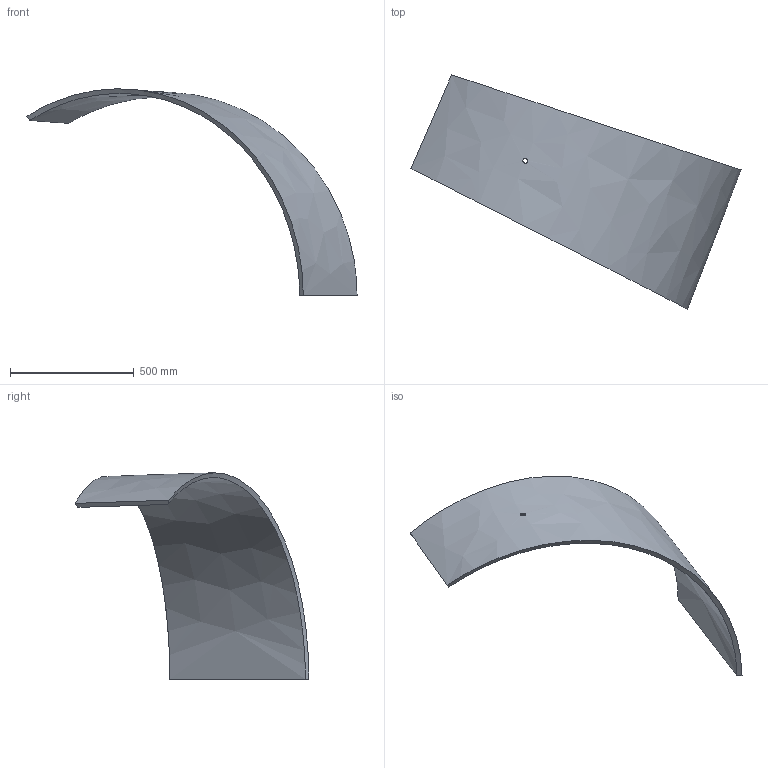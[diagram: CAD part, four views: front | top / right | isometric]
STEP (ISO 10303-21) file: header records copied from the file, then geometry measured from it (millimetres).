
FILE_DESCRIPTION (( 'STEP AP214' ), '1' );
FILE_NAME ('P6.2Mirror.STEP', '2025-01-09T19:43:24', ( '' ), ( '' ), 'SwSTEP 2.0', 'SolidWorks 2024', '' );
FILE_SCHEMA (( 'AUTOMOTIVE_DESIGN' ));
Length unit declared in the file: inch
Products named in the file (1): P6.2Mirror
Bounding box: 1333.94 x 944.46 x 834.2 mm (x, y, z)
Volume: 15928315.1 mm3; surface area: 1875560.1 mm2
Topology: 1 solids, 1 shells, 8 faces, 18 edges, 12 vertices
Faces by surface type: bspline 7, cylinder 1
Full cylindrical faces by diameter (mm): 19.431 x1
Entity records: 3024 total; most frequent: CARTESIAN_POINT 2876, ORIENTED_EDGE 30, EDGE_CURVE 15, B_SPLINE_CURVE_WITH_KNOTS 15, EDGE_LOOP 12, VERTEX_POINT 11, FACE_OUTER_BOUND 10, ADVANCED_FACE 8
